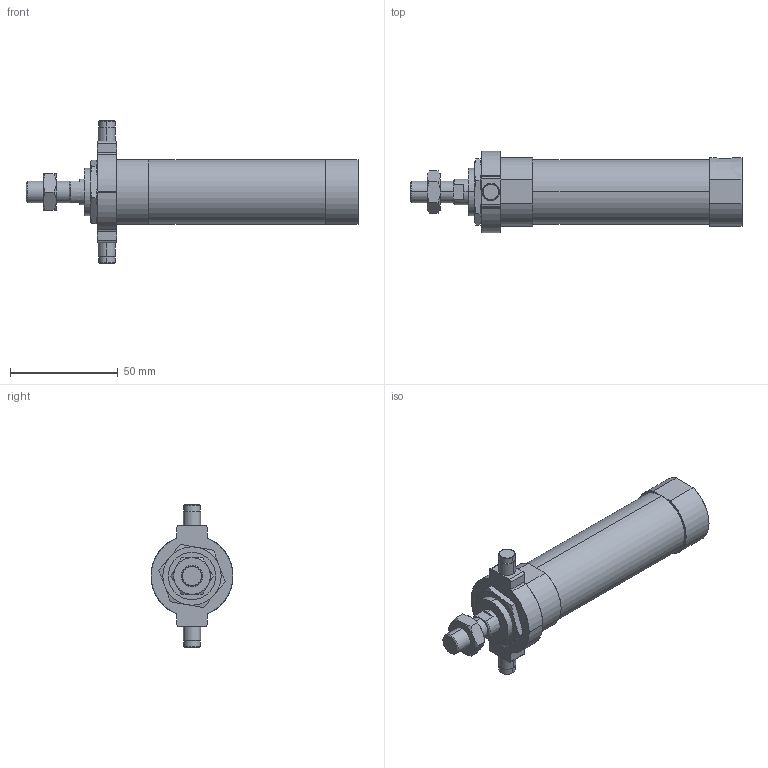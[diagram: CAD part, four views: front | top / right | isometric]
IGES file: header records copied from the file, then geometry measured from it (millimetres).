
Start section: SolidWorks IGES file using analytic representation for surfaces
Global section: file name: C:\Users\Toshiba\Desktop\JGND1-25-25-T.IGS; native system: SolidWorks 2014; preprocessor: SolidWorks 2014; author: Toshiba; date: 160804.101648; units: millimetre
Bounding box: 154 x 38 x 66 mm (x, y, z)
Surface area: 21029.5 mm2 (no closed solid volume)
Topology: 0 solids, 0 shells, 124 faces, 2014 edges, 2012 vertices
Faces by surface type: bspline 69, revolution 55
